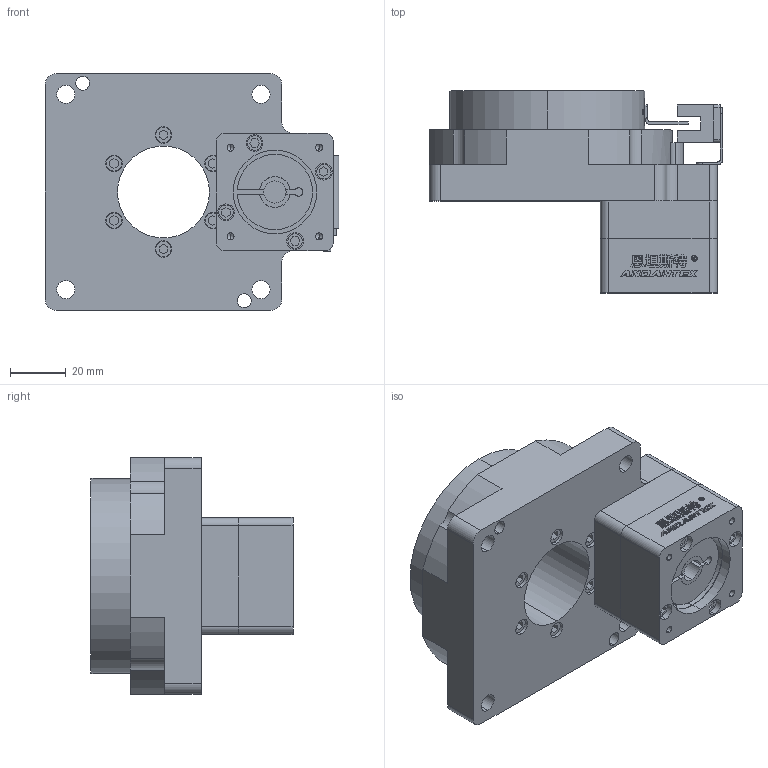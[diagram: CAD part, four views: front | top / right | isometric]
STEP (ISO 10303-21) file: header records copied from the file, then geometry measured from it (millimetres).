
FILE_DESCRIPTION(('Open CASCADE Model'),'2;1');
FILE_NAME('Open CASCADE Shape Model','2026-10-11T03:04:38',('Author'),( 'Open CASCADE'),'Open CASCADE STEP processor 7.8','Open CASCADE 7.8' ,'Unknown');
FILE_SCHEMA(('AUTOMOTIVE_DESIGN { 1 0 10303 214 1 1 1 1 }'));
Length unit declared in the file: millimetre
Products named in the file (3): NT85-15(配伺服100W 输入8-30 30-5 4-M3-45); NT85-15(配伺服100W 输入8-30 30-5 4-M3-45)-01; NT85-15(配伺服100W 输入8-30 30-5 4-M3-45)-02
Assembly tree (2 placements, depth 2):
  NT85-15(配伺服100W 输入8-30 30-5 4-M3-45)
    NT85-15(配伺服100W 输入8-30 30-5 4-M3-45)-01
    NT85-15(配伺服100W 输入8-30 30-5 4-M3-45)-02
Bounding box: 105.5 x 72.5 x 85 mm (x, y, z)
Volume: 246125 mm3; surface area: 55166.2 mm2
Topology: 6 solids, 12 shells, 1070 faces, 2881 edges, 1890 vertices
Faces by surface type: plane 831, cylinder 203, cone 36
Entity records: 70323 total; most frequent: CARTESIAN_POINT 15044, DIRECTION 9620, LINE 6539, VECTOR 6539, ORIENTED_EDGE 5690, PCURVE 5690, DEFINITIONAL_REPRESENTATION 5690, EDGE_CURVE 2845
